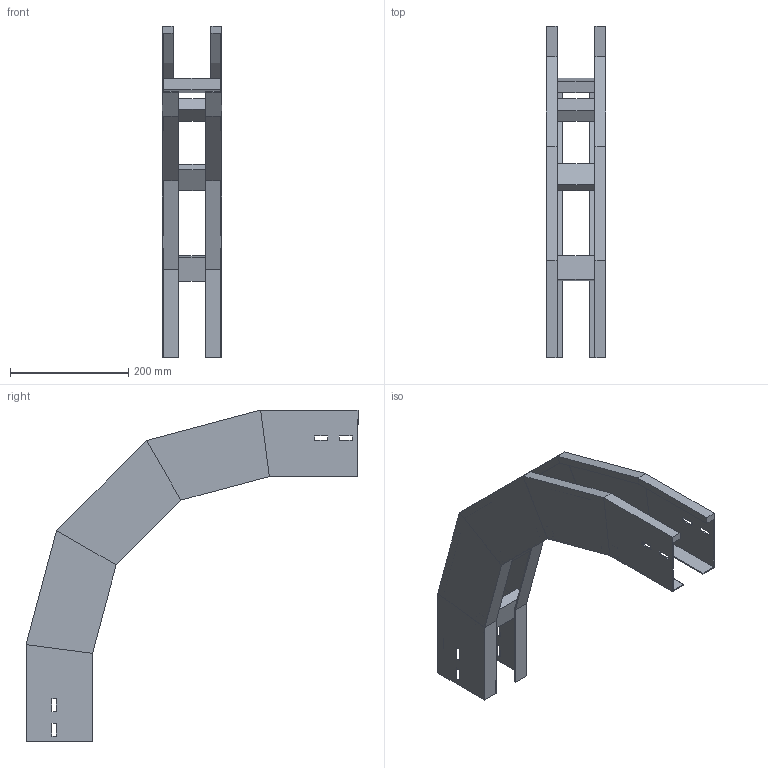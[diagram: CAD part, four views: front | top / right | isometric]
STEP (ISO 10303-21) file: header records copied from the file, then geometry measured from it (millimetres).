
FILE_DESCRIPTION (( 'STEP AP214' ), '1' );
FILE_NAME ('A2_33B3J100.step', '2025-02-21T15:03:25', ( '' ), ( '' ), 'SwSTEP 2.0', 'SolidWorks 2023', '' );
FILE_SCHEMA (( 'AUTOMOTIVE_DESIGN' ));
Length unit declared in the file: millimetre
Products named in the file (3): A2_33B3J100; TRAVERSINO_100; LONGH.DISCESA_90°_H112.5_R300
Assembly tree (6 placements, depth 2):
  A2_33B3J100
    LONGH.DISCESA_90°_H112.5_R300  x2
    TRAVERSINO_100  x4
Bounding box: 100 x 561.94 x 561.94 mm (x, y, z)
Volume: 1129074 mm3; surface area: 581339.5 mm2
Topology: 6 solids, 6 shells, 140 faces, 320 edges, 192 vertices
Faces by surface type: plane 140
Entity records: 1872 total; most frequent: CARTESIAN_POINT 309, ORIENTED_EDGE 296, DIRECTION 294, VECTOR 148, EDGE_CURVE 148, LINE 148, VERTEX_POINT 88, AXIS2_PLACEMENT_3D 73
